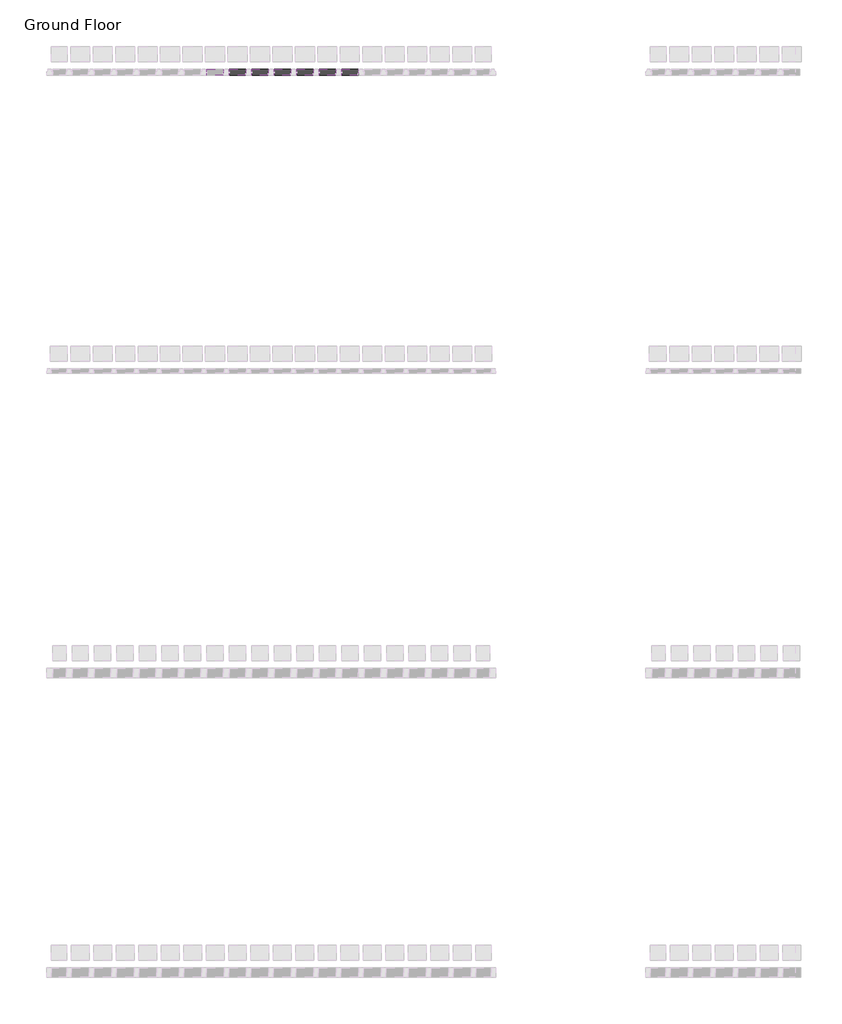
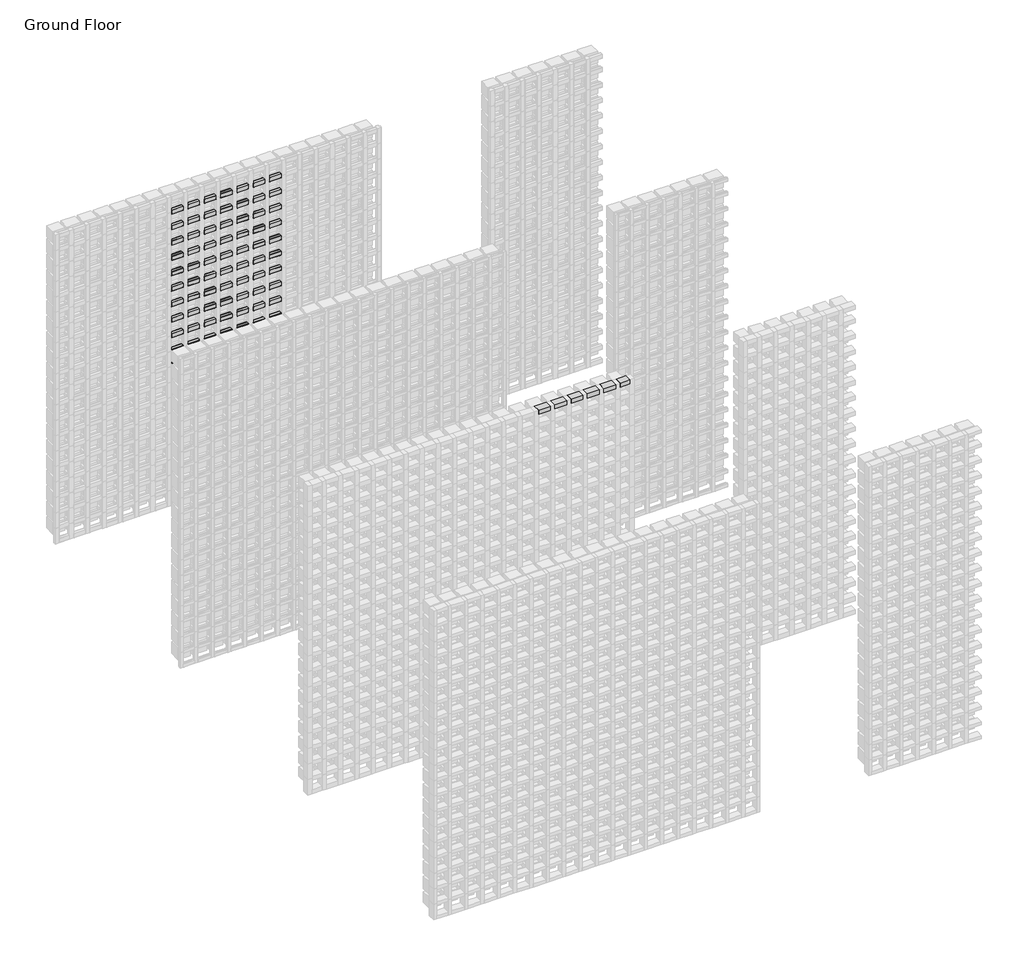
# One storey, part 123 of 350: 102 members, 38 plates.
"""IFC4 building model written with IfcOpenShell, lengths in millimetres."""

from ifc_helpers import new_model, si_unit, origin, place, context, project, spatial, transform, mapped, element, save
from components import rectangular_mullion_655930e9, rectangular_mullion_78309e0b, rectangular_mullion_581565bb, rectangular_mullion_141bfd94, rectangular_mullion_d5b82d3d, rectangular_mullion_f7732041, rectangular_mullion_c1c7f7ba, empty_system_panel_empty_571a4fa0, empty_system_panel_empty_3b500fad, empty_system_panel_empty_1faefc6a, empty_system_panel_empty_b6d7d726

model = new_model("IFC4")

# Units and contexts
model_context = context("Model", 3, world=origin())
ifc_project = project(units=[si_unit("LENGTHUNIT", "METRE", prefix="MILLI")], contexts=[model_context])

# Site, building, storey
site = spatial("IfcSite", under=ifc_project)
building = spatial("IfcBuilding", under=site)
storey = spatial("IfcBuildingStorey", under=building, Name="Ground Floor", Elevation=0.0)

# Members
placement = place(None, origin())
rectangular_mullion_shape = rectangular_mullion_655930e9(model_context)
element("IfcMember", 1, ObjectType="Rectangular Mullion : Batten_Timber_Modinex_Austratus_Grid_Fascia_40x65_Blackbutt", at=placement, inside=storey, context=model_context, shape_type="MappedRepresentation", body=[
    mapped(rectangular_mullion_shape, transform((8016.4361642, 40968.2978302, 0.0), x_axis=(1.0, 0.0, 0.0), y_axis=(0.0, -1.0, 0.0), z_axis=(0.0, 0.0, -1.0))),
])
element("IfcMember", 2, ObjectType="Rectangular Mullion : Batten_Timber_Modinex_Austratus_Grid_Fascia_40x65_Blackbutt", at=placement, inside=storey, context=model_context, shape_type="MappedRepresentation", body=[
    mapped(rectangular_mullion_shape, transform((8166.4361642, 40968.2978302, 0.0), x_axis=(1.0, 0.0, 0.0), y_axis=(0.0, -1.0, 0.0), z_axis=(0.0, 0.0, -1.0))),
])
element("IfcMember", 3, ObjectType="Rectangular Mullion : Batten_Timber_Modinex_Austratus_Grid_Fascia_40x65_Blackbutt", at=placement, inside=storey, context=model_context, shape_type="MappedRepresentation", body=[
    mapped(rectangular_mullion_shape, transform((8316.4361642, 40968.2978302, 0.0), x_axis=(1.0, 0.0, 0.0), y_axis=(0.0, -1.0, 0.0), z_axis=(0.0, 0.0, -1.0))),
])
element("IfcMember", 4, ObjectType="Rectangular Mullion : Batten_Timber_Modinex_Austratus_Grid_Fascia_40x65_Blackbutt", at=placement, inside=storey, context=model_context, shape_type="MappedRepresentation", body=[
    mapped(rectangular_mullion_shape, transform((8466.4361642, 40968.2978302, 0.0), x_axis=(1.0, 0.0, 0.0), y_axis=(0.0, -1.0, 0.0), z_axis=(0.0, 0.0, -1.0))),
])
element("IfcMember", 5, ObjectType="Rectangular Mullion : Batten_Timber_Modinex_Austratus_Grid_Fascia_40x65_Blackbutt", at=placement, inside=storey, context=model_context, shape_type="MappedRepresentation", body=[
    mapped(rectangular_mullion_shape, transform((8616.4361642, 40968.2978302, 0.0), x_axis=(1.0, 0.0, 0.0), y_axis=(0.0, -1.0, 0.0), z_axis=(0.0, 0.0, -1.0))),
])
element("IfcMember", 6, ObjectType="Rectangular Mullion : Batten_Timber_Modinex_Austratus_Grid_Fascia_40x65_Blackbutt", at=placement, inside=storey, context=model_context, shape_type="MappedRepresentation", body=[
    mapped(rectangular_mullion_shape, transform((8766.4361642, 40968.2978302, 0.0), x_axis=(1.0, 0.0, 0.0), y_axis=(0.0, -1.0, 0.0), z_axis=(0.0, 0.0, -1.0))),
])
rectangular_mullion_2_shape = rectangular_mullion_78309e0b(model_context)
element("IfcMember", 7, ObjectType="Rectangular Mullion : Batten_Timber_Modinex_Austratus_Grid_Fascia_40x65_Blackbutt", at=placement, inside=storey, context=model_context, shape_type="MappedRepresentation", body=[
    mapped(rectangular_mullion_2_shape, transform((8876.4361639, 40968.2978302, 3000.0), x_axis=(0.0, 0.0, 1.0), y_axis=(0.0, -1.0, 0.0), z_axis=(1.0, 0.0, 0.0))),
])
rectangular_mullion_3_shape = rectangular_mullion_581565bb(model_context)
element("IfcMember", 8, ObjectType="Rectangular Mullion : Batten_Timber_Modinex_Austratus_Grid_Fascia_40x65_Blackbutt", at=placement, inside=storey, context=model_context, shape_type="MappedRepresentation", body=[
    mapped(rectangular_mullion_3_shape, transform((8146.4361642, 40968.2978302, 3000.0), x_axis=(0.0, 0.0, 1.0), y_axis=(0.0, -1.0, 0.0), z_axis=(1.0, 0.0, 0.0))),
])
element("IfcMember", 9, ObjectType="Rectangular Mullion : Batten_Timber_Modinex_Austratus_Grid_Fascia_40x65_Blackbutt", at=placement, inside=storey, context=model_context, shape_type="MappedRepresentation", body=[
    mapped(rectangular_mullion_3_shape, transform((8296.4361642, 40968.2978302, 3000.0), x_axis=(0.0, 0.0, 1.0), y_axis=(0.0, -1.0, 0.0), z_axis=(1.0, 0.0, 0.0))),
])
element("IfcMember", 10, ObjectType="Rectangular Mullion : Batten_Timber_Modinex_Austratus_Grid_Fascia_40x65_Blackbutt", at=placement, inside=storey, context=model_context, shape_type="MappedRepresentation", body=[
    mapped(rectangular_mullion_3_shape, transform((8446.4361642, 40968.2978302, 3000.0), x_axis=(0.0, 0.0, 1.0), y_axis=(0.0, -1.0, 0.0), z_axis=(1.0, 0.0, 0.0))),
])
element("IfcMember", 11, ObjectType="Rectangular Mullion : Batten_Timber_Modinex_Austratus_Grid_Fascia_40x65_Blackbutt", at=placement, inside=storey, context=model_context, shape_type="MappedRepresentation", body=[
    mapped(rectangular_mullion_3_shape, transform((8596.4361642, 40968.2978302, 3000.0), x_axis=(0.0, 0.0, 1.0), y_axis=(0.0, -1.0, 0.0), z_axis=(1.0, 0.0, 0.0))),
])
element("IfcMember", 12, ObjectType="Rectangular Mullion : Batten_Timber_Modinex_Austratus_Grid_Fascia_40x65_Blackbutt", at=placement, inside=storey, context=model_context, shape_type="MappedRepresentation", body=[
    mapped(rectangular_mullion_3_shape, transform((8746.4361642, 40968.2978302, 3000.0), x_axis=(0.0, 0.0, 1.0), y_axis=(0.0, -1.0, 0.0), z_axis=(1.0, 0.0, 0.0))),
])
rectangular_mullion_4_shape = rectangular_mullion_141bfd94(model_context)
element("IfcMember", 13, ObjectType="Rectangular Mullion : Batten_Timber_Modinex_Austratus_Grid_Fascia_40x65_Blackbutt", at=placement, inside=storey, context=model_context, shape_type="MappedRepresentation", body=[
    mapped(rectangular_mullion_4_shape, transform((8786.4361642, 40968.2978302, 0.0), x_axis=(0.0, 0.0, -1.0), y_axis=(0.0, -1.0, 0.0), z_axis=(-1.0, 0.0, 0.0))),
])
rectangular_mullion_5_shape = rectangular_mullion_d5b82d3d(model_context)
element("IfcMember", 14, ObjectType="Rectangular Mullion : Batten_Timber_Modinex_Austratus_Grid_Fascia_40x65_Blackbutt", at=placement, inside=storey, context=model_context, shape_type="MappedRepresentation", body=[
    mapped(rectangular_mullion_5_shape, transform((8036.4361642, 40968.2978302, 0.0), x_axis=(0.0, 0.0, -1.0), y_axis=(0.0, -1.0, 0.0), z_axis=(-1.0, 0.0, 0.0))),
])
element("IfcMember", 15, ObjectType="Rectangular Mullion : Batten_Timber_Modinex_Austratus_Grid_Fascia_40x65_Blackbutt", at=placement, inside=storey, context=model_context, shape_type="MappedRepresentation", body=[
    mapped(rectangular_mullion_5_shape, transform((8186.4361642, 40968.2978302, 0.0), x_axis=(0.0, 0.0, -1.0), y_axis=(0.0, -1.0, 0.0), z_axis=(-1.0, 0.0, 0.0))),
])
element("IfcMember", 16, ObjectType="Rectangular Mullion : Batten_Timber_Modinex_Austratus_Grid_Fascia_40x65_Blackbutt", at=placement, inside=storey, context=model_context, shape_type="MappedRepresentation", body=[
    mapped(rectangular_mullion_5_shape, transform((8336.4361642, 40968.2978302, 0.0), x_axis=(0.0, 0.0, -1.0), y_axis=(0.0, -1.0, 0.0), z_axis=(-1.0, 0.0, 0.0))),
])
element("IfcMember", 17, ObjectType="Rectangular Mullion : Batten_Timber_Modinex_Austratus_Grid_Fascia_40x65_Blackbutt", at=placement, inside=storey, context=model_context, shape_type="MappedRepresentation", body=[
    mapped(rectangular_mullion_5_shape, transform((8486.4361642, 40968.2978302, 0.0), x_axis=(0.0, 0.0, -1.0), y_axis=(0.0, -1.0, 0.0), z_axis=(-1.0, 0.0, 0.0))),
])
element("IfcMember", 18, ObjectType="Rectangular Mullion : Batten_Timber_Modinex_Austratus_Grid_Fascia_40x65_Blackbutt", at=placement, inside=storey, context=model_context, shape_type="MappedRepresentation", body=[
    mapped(rectangular_mullion_5_shape, transform((8636.4361642, 40968.2978302, 0.0), x_axis=(0.0, 0.0, -1.0), y_axis=(0.0, -1.0, 0.0), z_axis=(-1.0, 0.0, 0.0))),
])
rectangular_mullion_6_shape = rectangular_mullion_f7732041(model_context)
element("IfcMember", 19, ObjectType="Rectangular Mullion : Batten_Timber_Modinex_Austratus_Grid_Fascia_40x65_Blackbutt", at=placement, inside=storey, context=model_context, shape_type="MappedRepresentation", body=[
    mapped(rectangular_mullion_6_shape, transform((8916.4361639, 40968.2978302, 0.0), x_axis=(1.0, 0.0, 0.0), y_axis=(0.0, -1.0, 0.0), z_axis=(0.0, 0.0, -1.0))),
])
rectangular_mullion_7_shape = rectangular_mullion_c1c7f7ba(model_context)
element("IfcMember", 20, ObjectType="Rectangular Mullion : Batten_Timber_Modinex_Austratus_Grid_Fin_40x40_Blackbutt", at=placement, inside=storey, context=model_context, shape_type="MappedRepresentation", body=[
    mapped(rectangular_mullion_7_shape, transform((7246.4361642, 44968.2978302, 1200.0), x_axis=(0.0, 0.0, 1.0), y_axis=(0.0, -1.0, 0.0), z_axis=(1.0, 0.0, 0.0))),
])
element("IfcMember", 21, ObjectType="Rectangular Mullion : Batten_Timber_Modinex_Austratus_Grid_Fin_40x40_Blackbutt", at=placement, inside=storey, context=model_context, shape_type="MappedRepresentation", body=[
    mapped(rectangular_mullion_7_shape, transform((7396.4361642, 44968.2978302, 1200.0), x_axis=(0.0, 0.0, 1.0), y_axis=(0.0, -1.0, 0.0), z_axis=(1.0, 0.0, 0.0))),
])
element("IfcMember", 22, ObjectType="Rectangular Mullion : Batten_Timber_Modinex_Austratus_Grid_Fin_40x40_Blackbutt", at=placement, inside=storey, context=model_context, shape_type="MappedRepresentation", body=[
    mapped(rectangular_mullion_7_shape, transform((7546.4361642, 44968.2978302, 1200.0), x_axis=(0.0, 0.0, 1.0), y_axis=(0.0, -1.0, 0.0), z_axis=(1.0, 0.0, 0.0))),
])
element("IfcMember", 23, ObjectType="Rectangular Mullion : Batten_Timber_Modinex_Austratus_Grid_Fin_40x40_Blackbutt", at=placement, inside=storey, context=model_context, shape_type="MappedRepresentation", body=[
    mapped(rectangular_mullion_7_shape, transform((7696.4361642, 44968.2978302, 1200.0), x_axis=(0.0, 0.0, 1.0), y_axis=(0.0, -1.0, 0.0), z_axis=(1.0, 0.0, 0.0))),
])
element("IfcMember", 24, ObjectType="Rectangular Mullion : Batten_Timber_Modinex_Austratus_Grid_Fin_40x40_Blackbutt", at=placement, inside=storey, context=model_context, shape_type="MappedRepresentation", body=[
    mapped(rectangular_mullion_7_shape, transform((7846.4361642, 44968.2978302, 1200.0), x_axis=(0.0, 0.0, 1.0), y_axis=(0.0, -1.0, 0.0), z_axis=(1.0, 0.0, 0.0))),
])
element("IfcMember", 25, ObjectType="Rectangular Mullion : Batten_Timber_Modinex_Austratus_Grid_Fin_40x40_Blackbutt", at=placement, inside=storey, context=model_context, shape_type="MappedRepresentation", body=[
    mapped(rectangular_mullion_7_shape, transform((7996.4361642, 44968.2978302, 1200.0), x_axis=(0.0, 0.0, 1.0), y_axis=(0.0, -1.0, 0.0), z_axis=(1.0, 0.0, 0.0))),
])
element("IfcMember", 26, ObjectType="Rectangular Mullion : Batten_Timber_Modinex_Austratus_Grid_Fin_40x40_Blackbutt", at=placement, inside=storey, context=model_context, shape_type="MappedRepresentation", body=[
    mapped(rectangular_mullion_7_shape, transform((7096.4361642, 44968.2978302, 1350.0), x_axis=(0.0, 0.0, 1.0), y_axis=(0.0, -1.0, 0.0), z_axis=(1.0, 0.0, 0.0))),
])
element("IfcMember", 27, ObjectType="Rectangular Mullion : Batten_Timber_Modinex_Austratus_Grid_Fin_40x40_Blackbutt", at=placement, inside=storey, context=model_context, shape_type="MappedRepresentation", body=[
    mapped(rectangular_mullion_7_shape, transform((7246.4361642, 44968.2978302, 1350.0), x_axis=(0.0, 0.0, 1.0), y_axis=(0.0, -1.0, 0.0), z_axis=(1.0, 0.0, 0.0))),
])
element("IfcMember", 28, ObjectType="Rectangular Mullion : Batten_Timber_Modinex_Austratus_Grid_Fin_40x40_Blackbutt", at=placement, inside=storey, context=model_context, shape_type="MappedRepresentation", body=[
    mapped(rectangular_mullion_7_shape, transform((7396.4361642, 44968.2978302, 1350.0), x_axis=(0.0, 0.0, 1.0), y_axis=(0.0, -1.0, 0.0), z_axis=(1.0, 0.0, 0.0))),
])
element("IfcMember", 29, ObjectType="Rectangular Mullion : Batten_Timber_Modinex_Austratus_Grid_Fin_40x40_Blackbutt", at=placement, inside=storey, context=model_context, shape_type="MappedRepresentation", body=[
    mapped(rectangular_mullion_7_shape, transform((7546.4361642, 44968.2978302, 1350.0), x_axis=(0.0, 0.0, 1.0), y_axis=(0.0, -1.0, 0.0), z_axis=(1.0, 0.0, 0.0))),
])
element("IfcMember", 30, ObjectType="Rectangular Mullion : Batten_Timber_Modinex_Austratus_Grid_Fin_40x40_Blackbutt", at=placement, inside=storey, context=model_context, shape_type="MappedRepresentation", body=[
    mapped(rectangular_mullion_7_shape, transform((7696.4361642, 44968.2978302, 1350.0), x_axis=(0.0, 0.0, 1.0), y_axis=(0.0, -1.0, 0.0), z_axis=(1.0, 0.0, 0.0))),
])
element("IfcMember", 31, ObjectType="Rectangular Mullion : Batten_Timber_Modinex_Austratus_Grid_Fin_40x40_Blackbutt", at=placement, inside=storey, context=model_context, shape_type="MappedRepresentation", body=[
    mapped(rectangular_mullion_7_shape, transform((7846.4361642, 44968.2978302, 1350.0), x_axis=(0.0, 0.0, 1.0), y_axis=(0.0, -1.0, 0.0), z_axis=(1.0, 0.0, 0.0))),
])
element("IfcMember", 32, ObjectType="Rectangular Mullion : Batten_Timber_Modinex_Austratus_Grid_Fin_40x40_Blackbutt", at=placement, inside=storey, context=model_context, shape_type="MappedRepresentation", body=[
    mapped(rectangular_mullion_7_shape, transform((7996.4361642, 44968.2978302, 1350.0), x_axis=(0.0, 0.0, 1.0), y_axis=(0.0, -1.0, 0.0), z_axis=(1.0, 0.0, 0.0))),
])
element("IfcMember", 33, ObjectType="Rectangular Mullion : Batten_Timber_Modinex_Austratus_Grid_Fin_40x40_Blackbutt", at=placement, inside=storey, context=model_context, shape_type="MappedRepresentation", body=[
    mapped(rectangular_mullion_7_shape, transform((7096.4361642, 44968.2978302, 1500.0), x_axis=(0.0, 0.0, 1.0), y_axis=(0.0, -1.0, 0.0), z_axis=(1.0, 0.0, 0.0))),
])
element("IfcMember", 34, ObjectType="Rectangular Mullion : Batten_Timber_Modinex_Austratus_Grid_Fin_40x40_Blackbutt", at=placement, inside=storey, context=model_context, shape_type="MappedRepresentation", body=[
    mapped(rectangular_mullion_7_shape, transform((7246.4361642, 44968.2978302, 1500.0), x_axis=(0.0, 0.0, 1.0), y_axis=(0.0, -1.0, 0.0), z_axis=(1.0, 0.0, 0.0))),
])
element("IfcMember", 35, ObjectType="Rectangular Mullion : Batten_Timber_Modinex_Austratus_Grid_Fin_40x40_Blackbutt", at=placement, inside=storey, context=model_context, shape_type="MappedRepresentation", body=[
    mapped(rectangular_mullion_7_shape, transform((7396.4361642, 44968.2978302, 1500.0), x_axis=(0.0, 0.0, 1.0), y_axis=(0.0, -1.0, 0.0), z_axis=(1.0, 0.0, 0.0))),
])
element("IfcMember", 36, ObjectType="Rectangular Mullion : Batten_Timber_Modinex_Austratus_Grid_Fin_40x40_Blackbutt", at=placement, inside=storey, context=model_context, shape_type="MappedRepresentation", body=[
    mapped(rectangular_mullion_7_shape, transform((7546.4361642, 44968.2978302, 1500.0), x_axis=(0.0, 0.0, 1.0), y_axis=(0.0, -1.0, 0.0), z_axis=(1.0, 0.0, 0.0))),
])
element("IfcMember", 37, ObjectType="Rectangular Mullion : Batten_Timber_Modinex_Austratus_Grid_Fin_40x40_Blackbutt", at=placement, inside=storey, context=model_context, shape_type="MappedRepresentation", body=[
    mapped(rectangular_mullion_7_shape, transform((7696.4361642, 44968.2978302, 1500.0), x_axis=(0.0, 0.0, 1.0), y_axis=(0.0, -1.0, 0.0), z_axis=(1.0, 0.0, 0.0))),
])
element("IfcMember", 38, ObjectType="Rectangular Mullion : Batten_Timber_Modinex_Austratus_Grid_Fin_40x40_Blackbutt", at=placement, inside=storey, context=model_context, shape_type="MappedRepresentation", body=[
    mapped(rectangular_mullion_7_shape, transform((7846.4361642, 44968.2978302, 1500.0), x_axis=(0.0, 0.0, 1.0), y_axis=(0.0, -1.0, 0.0), z_axis=(1.0, 0.0, 0.0))),
])
element("IfcMember", 39, ObjectType="Rectangular Mullion : Batten_Timber_Modinex_Austratus_Grid_Fin_40x40_Blackbutt", at=placement, inside=storey, context=model_context, shape_type="MappedRepresentation", body=[
    mapped(rectangular_mullion_7_shape, transform((7996.4361642, 44968.2978302, 1500.0), x_axis=(0.0, 0.0, 1.0), y_axis=(0.0, -1.0, 0.0), z_axis=(1.0, 0.0, 0.0))),
])
element("IfcMember", 40, ObjectType="Rectangular Mullion : Batten_Timber_Modinex_Austratus_Grid_Fin_40x40_Blackbutt", at=placement, inside=storey, context=model_context, shape_type="MappedRepresentation", body=[
    mapped(rectangular_mullion_7_shape, transform((7096.4361642, 44968.2978302, 1650.0), x_axis=(0.0, 0.0, 1.0), y_axis=(0.0, -1.0, 0.0), z_axis=(1.0, 0.0, 0.0))),
])
element("IfcMember", 41, ObjectType="Rectangular Mullion : Batten_Timber_Modinex_Austratus_Grid_Fin_40x40_Blackbutt", at=placement, inside=storey, context=model_context, shape_type="MappedRepresentation", body=[
    mapped(rectangular_mullion_7_shape, transform((7246.4361642, 44968.2978302, 1650.0), x_axis=(0.0, 0.0, 1.0), y_axis=(0.0, -1.0, 0.0), z_axis=(1.0, 0.0, 0.0))),
])
element("IfcMember", 42, ObjectType="Rectangular Mullion : Batten_Timber_Modinex_Austratus_Grid_Fin_40x40_Blackbutt", at=placement, inside=storey, context=model_context, shape_type="MappedRepresentation", body=[
    mapped(rectangular_mullion_7_shape, transform((7396.4361642, 44968.2978302, 1650.0), x_axis=(0.0, 0.0, 1.0), y_axis=(0.0, -1.0, 0.0), z_axis=(1.0, 0.0, 0.0))),
])
element("IfcMember", 43, ObjectType="Rectangular Mullion : Batten_Timber_Modinex_Austratus_Grid_Fin_40x40_Blackbutt", at=placement, inside=storey, context=model_context, shape_type="MappedRepresentation", body=[
    mapped(rectangular_mullion_7_shape, transform((7546.4361642, 44968.2978302, 1650.0), x_axis=(0.0, 0.0, 1.0), y_axis=(0.0, -1.0, 0.0), z_axis=(1.0, 0.0, 0.0))),
])
element("IfcMember", 44, ObjectType="Rectangular Mullion : Batten_Timber_Modinex_Austratus_Grid_Fin_40x40_Blackbutt", at=placement, inside=storey, context=model_context, shape_type="MappedRepresentation", body=[
    mapped(rectangular_mullion_7_shape, transform((7696.4361642, 44968.2978302, 1650.0), x_axis=(0.0, 0.0, 1.0), y_axis=(0.0, -1.0, 0.0), z_axis=(1.0, 0.0, 0.0))),
])
element("IfcMember", 45, ObjectType="Rectangular Mullion : Batten_Timber_Modinex_Austratus_Grid_Fin_40x40_Blackbutt", at=placement, inside=storey, context=model_context, shape_type="MappedRepresentation", body=[
    mapped(rectangular_mullion_7_shape, transform((7846.4361642, 44968.2978302, 1650.0), x_axis=(0.0, 0.0, 1.0), y_axis=(0.0, -1.0, 0.0), z_axis=(1.0, 0.0, 0.0))),
])
element("IfcMember", 46, ObjectType="Rectangular Mullion : Batten_Timber_Modinex_Austratus_Grid_Fin_40x40_Blackbutt", at=placement, inside=storey, context=model_context, shape_type="MappedRepresentation", body=[
    mapped(rectangular_mullion_7_shape, transform((7996.4361642, 44968.2978302, 1650.0), x_axis=(0.0, 0.0, 1.0), y_axis=(0.0, -1.0, 0.0), z_axis=(1.0, 0.0, 0.0))),
])
element("IfcMember", 47, ObjectType="Rectangular Mullion : Batten_Timber_Modinex_Austratus_Grid_Fin_40x40_Blackbutt", at=placement, inside=storey, context=model_context, shape_type="MappedRepresentation", body=[
    mapped(rectangular_mullion_7_shape, transform((7096.4361642, 44968.2978302, 1800.0), x_axis=(0.0, 0.0, 1.0), y_axis=(0.0, -1.0, 0.0), z_axis=(1.0, 0.0, 0.0))),
])
element("IfcMember", 48, ObjectType="Rectangular Mullion : Batten_Timber_Modinex_Austratus_Grid_Fin_40x40_Blackbutt", at=placement, inside=storey, context=model_context, shape_type="MappedRepresentation", body=[
    mapped(rectangular_mullion_7_shape, transform((7246.4361642, 44968.2978302, 1800.0), x_axis=(0.0, 0.0, 1.0), y_axis=(0.0, -1.0, 0.0), z_axis=(1.0, 0.0, 0.0))),
])
element("IfcMember", 49, ObjectType="Rectangular Mullion : Batten_Timber_Modinex_Austratus_Grid_Fin_40x40_Blackbutt", at=placement, inside=storey, context=model_context, shape_type="MappedRepresentation", body=[
    mapped(rectangular_mullion_7_shape, transform((7396.4361642, 44968.2978302, 1800.0), x_axis=(0.0, 0.0, 1.0), y_axis=(0.0, -1.0, 0.0), z_axis=(1.0, 0.0, 0.0))),
])
element("IfcMember", 50, ObjectType="Rectangular Mullion : Batten_Timber_Modinex_Austratus_Grid_Fin_40x40_Blackbutt", at=placement, inside=storey, context=model_context, shape_type="MappedRepresentation", body=[
    mapped(rectangular_mullion_7_shape, transform((7546.4361642, 44968.2978302, 1800.0), x_axis=(0.0, 0.0, 1.0), y_axis=(0.0, -1.0, 0.0), z_axis=(1.0, 0.0, 0.0))),
])
element("IfcMember", 51, ObjectType="Rectangular Mullion : Batten_Timber_Modinex_Austratus_Grid_Fin_40x40_Blackbutt", at=placement, inside=storey, context=model_context, shape_type="MappedRepresentation", body=[
    mapped(rectangular_mullion_7_shape, transform((7696.4361642, 44968.2978302, 1800.0), x_axis=(0.0, 0.0, 1.0), y_axis=(0.0, -1.0, 0.0), z_axis=(1.0, 0.0, 0.0))),
])
element("IfcMember", 52, ObjectType="Rectangular Mullion : Batten_Timber_Modinex_Austratus_Grid_Fin_40x40_Blackbutt", at=placement, inside=storey, context=model_context, shape_type="MappedRepresentation", body=[
    mapped(rectangular_mullion_7_shape, transform((7846.4361642, 44968.2978302, 1800.0), x_axis=(0.0, 0.0, 1.0), y_axis=(0.0, -1.0, 0.0), z_axis=(1.0, 0.0, 0.0))),
])
element("IfcMember", 53, ObjectType="Rectangular Mullion : Batten_Timber_Modinex_Austratus_Grid_Fin_40x40_Blackbutt", at=placement, inside=storey, context=model_context, shape_type="MappedRepresentation", body=[
    mapped(rectangular_mullion_7_shape, transform((7996.4361642, 44968.2978302, 1800.0), x_axis=(0.0, 0.0, 1.0), y_axis=(0.0, -1.0, 0.0), z_axis=(1.0, 0.0, 0.0))),
])
element("IfcMember", 54, ObjectType="Rectangular Mullion : Batten_Timber_Modinex_Austratus_Grid_Fin_40x40_Blackbutt", at=placement, inside=storey, context=model_context, shape_type="MappedRepresentation", body=[
    mapped(rectangular_mullion_7_shape, transform((7096.4361642, 44968.2978302, 1950.0), x_axis=(0.0, 0.0, 1.0), y_axis=(0.0, -1.0, 0.0), z_axis=(1.0, 0.0, 0.0))),
])
element("IfcMember", 55, ObjectType="Rectangular Mullion : Batten_Timber_Modinex_Austratus_Grid_Fin_40x40_Blackbutt", at=placement, inside=storey, context=model_context, shape_type="MappedRepresentation", body=[
    mapped(rectangular_mullion_7_shape, transform((7246.4361642, 44968.2978302, 1950.0), x_axis=(0.0, 0.0, 1.0), y_axis=(0.0, -1.0, 0.0), z_axis=(1.0, 0.0, 0.0))),
])
element("IfcMember", 56, ObjectType="Rectangular Mullion : Batten_Timber_Modinex_Austratus_Grid_Fin_40x40_Blackbutt", at=placement, inside=storey, context=model_context, shape_type="MappedRepresentation", body=[
    mapped(rectangular_mullion_7_shape, transform((7396.4361642, 44968.2978302, 1950.0), x_axis=(0.0, 0.0, 1.0), y_axis=(0.0, -1.0, 0.0), z_axis=(1.0, 0.0, 0.0))),
])
element("IfcMember", 57, ObjectType="Rectangular Mullion : Batten_Timber_Modinex_Austratus_Grid_Fin_40x40_Blackbutt", at=placement, inside=storey, context=model_context, shape_type="MappedRepresentation", body=[
    mapped(rectangular_mullion_7_shape, transform((7546.4361642, 44968.2978302, 1950.0), x_axis=(0.0, 0.0, 1.0), y_axis=(0.0, -1.0, 0.0), z_axis=(1.0, 0.0, 0.0))),
])
element("IfcMember", 58, ObjectType="Rectangular Mullion : Batten_Timber_Modinex_Austratus_Grid_Fin_40x40_Blackbutt", at=placement, inside=storey, context=model_context, shape_type="MappedRepresentation", body=[
    mapped(rectangular_mullion_7_shape, transform((7696.4361642, 44968.2978302, 1950.0), x_axis=(0.0, 0.0, 1.0), y_axis=(0.0, -1.0, 0.0), z_axis=(1.0, 0.0, 0.0))),
])
element("IfcMember", 59, ObjectType="Rectangular Mullion : Batten_Timber_Modinex_Austratus_Grid_Fin_40x40_Blackbutt", at=placement, inside=storey, context=model_context, shape_type="MappedRepresentation", body=[
    mapped(rectangular_mullion_7_shape, transform((7846.4361642, 44968.2978302, 1950.0), x_axis=(0.0, 0.0, 1.0), y_axis=(0.0, -1.0, 0.0), z_axis=(1.0, 0.0, 0.0))),
])
element("IfcMember", 60, ObjectType="Rectangular Mullion : Batten_Timber_Modinex_Austratus_Grid_Fin_40x40_Blackbutt", at=placement, inside=storey, context=model_context, shape_type="MappedRepresentation", body=[
    mapped(rectangular_mullion_7_shape, transform((7996.4361642, 44968.2978302, 1950.0), x_axis=(0.0, 0.0, 1.0), y_axis=(0.0, -1.0, 0.0), z_axis=(1.0, 0.0, 0.0))),
])
element("IfcMember", 61, ObjectType="Rectangular Mullion : Batten_Timber_Modinex_Austratus_Grid_Fin_40x40_Blackbutt", at=placement, inside=storey, context=model_context, shape_type="MappedRepresentation", body=[
    mapped(rectangular_mullion_7_shape, transform((7096.4361642, 44968.2978302, 2100.0), x_axis=(0.0, 0.0, 1.0), y_axis=(0.0, -1.0, 0.0), z_axis=(1.0, 0.0, 0.0))),
])
element("IfcMember", 62, ObjectType="Rectangular Mullion : Batten_Timber_Modinex_Austratus_Grid_Fin_40x40_Blackbutt", at=placement, inside=storey, context=model_context, shape_type="MappedRepresentation", body=[
    mapped(rectangular_mullion_7_shape, transform((7246.4361642, 44968.2978302, 2100.0), x_axis=(0.0, 0.0, 1.0), y_axis=(0.0, -1.0, 0.0), z_axis=(1.0, 0.0, 0.0))),
])
element("IfcMember", 63, ObjectType="Rectangular Mullion : Batten_Timber_Modinex_Austratus_Grid_Fin_40x40_Blackbutt", at=placement, inside=storey, context=model_context, shape_type="MappedRepresentation", body=[
    mapped(rectangular_mullion_7_shape, transform((7396.4361642, 44968.2978302, 2100.0), x_axis=(0.0, 0.0, 1.0), y_axis=(0.0, -1.0, 0.0), z_axis=(1.0, 0.0, 0.0))),
])
element("IfcMember", 64, ObjectType="Rectangular Mullion : Batten_Timber_Modinex_Austratus_Grid_Fin_40x40_Blackbutt", at=placement, inside=storey, context=model_context, shape_type="MappedRepresentation", body=[
    mapped(rectangular_mullion_7_shape, transform((7546.4361642, 44968.2978302, 2100.0), x_axis=(0.0, 0.0, 1.0), y_axis=(0.0, -1.0, 0.0), z_axis=(1.0, 0.0, 0.0))),
])
element("IfcMember", 65, ObjectType="Rectangular Mullion : Batten_Timber_Modinex_Austratus_Grid_Fin_40x40_Blackbutt", at=placement, inside=storey, context=model_context, shape_type="MappedRepresentation", body=[
    mapped(rectangular_mullion_7_shape, transform((7696.4361642, 44968.2978302, 2100.0), x_axis=(0.0, 0.0, 1.0), y_axis=(0.0, -1.0, 0.0), z_axis=(1.0, 0.0, 0.0))),
])
element("IfcMember", 66, ObjectType="Rectangular Mullion : Batten_Timber_Modinex_Austratus_Grid_Fin_40x40_Blackbutt", at=placement, inside=storey, context=model_context, shape_type="MappedRepresentation", body=[
    mapped(rectangular_mullion_7_shape, transform((7846.4361642, 44968.2978302, 2100.0), x_axis=(0.0, 0.0, 1.0), y_axis=(0.0, -1.0, 0.0), z_axis=(1.0, 0.0, 0.0))),
])
element("IfcMember", 67, ObjectType="Rectangular Mullion : Batten_Timber_Modinex_Austratus_Grid_Fin_40x40_Blackbutt", at=placement, inside=storey, context=model_context, shape_type="MappedRepresentation", body=[
    mapped(rectangular_mullion_7_shape, transform((7996.4361642, 44968.2978302, 2100.0), x_axis=(0.0, 0.0, 1.0), y_axis=(0.0, -1.0, 0.0), z_axis=(1.0, 0.0, 0.0))),
])
element("IfcMember", 68, ObjectType="Rectangular Mullion : Batten_Timber_Modinex_Austratus_Grid_Fin_40x40_Blackbutt", at=placement, inside=storey, context=model_context, shape_type="MappedRepresentation", body=[
    mapped(rectangular_mullion_7_shape, transform((7096.4361642, 44968.2978302, 2250.0), x_axis=(0.0, 0.0, 1.0), y_axis=(0.0, -1.0, 0.0), z_axis=(1.0, 0.0, 0.0))),
])
element("IfcMember", 69, ObjectType="Rectangular Mullion : Batten_Timber_Modinex_Austratus_Grid_Fin_40x40_Blackbutt", at=placement, inside=storey, context=model_context, shape_type="MappedRepresentation", body=[
    mapped(rectangular_mullion_7_shape, transform((7246.4361642, 44968.2978302, 2250.0), x_axis=(0.0, 0.0, 1.0), y_axis=(0.0, -1.0, 0.0), z_axis=(1.0, 0.0, 0.0))),
])
element("IfcMember", 70, ObjectType="Rectangular Mullion : Batten_Timber_Modinex_Austratus_Grid_Fin_40x40_Blackbutt", at=placement, inside=storey, context=model_context, shape_type="MappedRepresentation", body=[
    mapped(rectangular_mullion_7_shape, transform((7396.4361642, 44968.2978302, 2250.0), x_axis=(0.0, 0.0, 1.0), y_axis=(0.0, -1.0, 0.0), z_axis=(1.0, 0.0, 0.0))),
])
element("IfcMember", 71, ObjectType="Rectangular Mullion : Batten_Timber_Modinex_Austratus_Grid_Fin_40x40_Blackbutt", at=placement, inside=storey, context=model_context, shape_type="MappedRepresentation", body=[
    mapped(rectangular_mullion_7_shape, transform((7546.4361642, 44968.2978302, 2250.0), x_axis=(0.0, 0.0, 1.0), y_axis=(0.0, -1.0, 0.0), z_axis=(1.0, 0.0, 0.0))),
])
element("IfcMember", 72, ObjectType="Rectangular Mullion : Batten_Timber_Modinex_Austratus_Grid_Fin_40x40_Blackbutt", at=placement, inside=storey, context=model_context, shape_type="MappedRepresentation", body=[
    mapped(rectangular_mullion_7_shape, transform((7696.4361642, 44968.2978302, 2250.0), x_axis=(0.0, 0.0, 1.0), y_axis=(0.0, -1.0, 0.0), z_axis=(1.0, 0.0, 0.0))),
])
element("IfcMember", 73, ObjectType="Rectangular Mullion : Batten_Timber_Modinex_Austratus_Grid_Fin_40x40_Blackbutt", at=placement, inside=storey, context=model_context, shape_type="MappedRepresentation", body=[
    mapped(rectangular_mullion_7_shape, transform((7846.4361642, 44968.2978302, 2250.0), x_axis=(0.0, 0.0, 1.0), y_axis=(0.0, -1.0, 0.0), z_axis=(1.0, 0.0, 0.0))),
])
element("IfcMember", 74, ObjectType="Rectangular Mullion : Batten_Timber_Modinex_Austratus_Grid_Fin_40x40_Blackbutt", at=placement, inside=storey, context=model_context, shape_type="MappedRepresentation", body=[
    mapped(rectangular_mullion_7_shape, transform((7996.4361642, 44968.2978302, 2250.0), x_axis=(0.0, 0.0, 1.0), y_axis=(0.0, -1.0, 0.0), z_axis=(1.0, 0.0, 0.0))),
])
element("IfcMember", 75, ObjectType="Rectangular Mullion : Batten_Timber_Modinex_Austratus_Grid_Fin_40x40_Blackbutt", at=placement, inside=storey, context=model_context, shape_type="MappedRepresentation", body=[
    mapped(rectangular_mullion_7_shape, transform((7096.4361642, 44968.2978302, 2400.0), x_axis=(0.0, 0.0, 1.0), y_axis=(0.0, -1.0, 0.0), z_axis=(1.0, 0.0, 0.0))),
])
element("IfcMember", 76, ObjectType="Rectangular Mullion : Batten_Timber_Modinex_Austratus_Grid_Fin_40x40_Blackbutt", at=placement, inside=storey, context=model_context, shape_type="MappedRepresentation", body=[
    mapped(rectangular_mullion_7_shape, transform((7246.4361642, 44968.2978302, 2400.0), x_axis=(0.0, 0.0, 1.0), y_axis=(0.0, -1.0, 0.0), z_axis=(1.0, 0.0, 0.0))),
])
element("IfcMember", 77, ObjectType="Rectangular Mullion : Batten_Timber_Modinex_Austratus_Grid_Fin_40x40_Blackbutt", at=placement, inside=storey, context=model_context, shape_type="MappedRepresentation", body=[
    mapped(rectangular_mullion_7_shape, transform((7396.4361642, 44968.2978302, 2400.0), x_axis=(0.0, 0.0, 1.0), y_axis=(0.0, -1.0, 0.0), z_axis=(1.0, 0.0, 0.0))),
])
element("IfcMember", 78, ObjectType="Rectangular Mullion : Batten_Timber_Modinex_Austratus_Grid_Fin_40x40_Blackbutt", at=placement, inside=storey, context=model_context, shape_type="MappedRepresentation", body=[
    mapped(rectangular_mullion_7_shape, transform((7546.4361642, 44968.2978302, 2400.0), x_axis=(0.0, 0.0, 1.0), y_axis=(0.0, -1.0, 0.0), z_axis=(1.0, 0.0, 0.0))),
])
element("IfcMember", 79, ObjectType="Rectangular Mullion : Batten_Timber_Modinex_Austratus_Grid_Fin_40x40_Blackbutt", at=placement, inside=storey, context=model_context, shape_type="MappedRepresentation", body=[
    mapped(rectangular_mullion_7_shape, transform((7696.4361642, 44968.2978302, 2400.0), x_axis=(0.0, 0.0, 1.0), y_axis=(0.0, -1.0, 0.0), z_axis=(1.0, 0.0, 0.0))),
])
element("IfcMember", 80, ObjectType="Rectangular Mullion : Batten_Timber_Modinex_Austratus_Grid_Fin_40x40_Blackbutt", at=placement, inside=storey, context=model_context, shape_type="MappedRepresentation", body=[
    mapped(rectangular_mullion_7_shape, transform((7846.4361642, 44968.2978302, 2400.0), x_axis=(0.0, 0.0, 1.0), y_axis=(0.0, -1.0, 0.0), z_axis=(1.0, 0.0, 0.0))),
])
element("IfcMember", 81, ObjectType="Rectangular Mullion : Batten_Timber_Modinex_Austratus_Grid_Fin_40x40_Blackbutt", at=placement, inside=storey, context=model_context, shape_type="MappedRepresentation", body=[
    mapped(rectangular_mullion_7_shape, transform((7996.4361642, 44968.2978302, 2400.0), x_axis=(0.0, 0.0, 1.0), y_axis=(0.0, -1.0, 0.0), z_axis=(1.0, 0.0, 0.0))),
])
element("IfcMember", 82, ObjectType="Rectangular Mullion : Batten_Timber_Modinex_Austratus_Grid_Fin_40x40_Blackbutt", at=placement, inside=storey, context=model_context, shape_type="MappedRepresentation", body=[
    mapped(rectangular_mullion_7_shape, transform((7096.4361642, 44968.2978302, 2550.0), x_axis=(0.0, 0.0, 1.0), y_axis=(0.0, -1.0, 0.0), z_axis=(1.0, 0.0, 0.0))),
])
element("IfcMember", 83, ObjectType="Rectangular Mullion : Batten_Timber_Modinex_Austratus_Grid_Fin_40x40_Blackbutt", at=placement, inside=storey, context=model_context, shape_type="MappedRepresentation", body=[
    mapped(rectangular_mullion_7_shape, transform((7246.4361642, 44968.2978302, 2550.0), x_axis=(0.0, 0.0, 1.0), y_axis=(0.0, -1.0, 0.0), z_axis=(1.0, 0.0, 0.0))),
])
element("IfcMember", 84, ObjectType="Rectangular Mullion : Batten_Timber_Modinex_Austratus_Grid_Fin_40x40_Blackbutt", at=placement, inside=storey, context=model_context, shape_type="MappedRepresentation", body=[
    mapped(rectangular_mullion_7_shape, transform((7396.4361642, 44968.2978302, 2550.0), x_axis=(0.0, 0.0, 1.0), y_axis=(0.0, -1.0, 0.0), z_axis=(1.0, 0.0, 0.0))),
])
element("IfcMember", 85, ObjectType="Rectangular Mullion : Batten_Timber_Modinex_Austratus_Grid_Fin_40x40_Blackbutt", at=placement, inside=storey, context=model_context, shape_type="MappedRepresentation", body=[
    mapped(rectangular_mullion_7_shape, transform((7546.4361642, 44968.2978302, 2550.0), x_axis=(0.0, 0.0, 1.0), y_axis=(0.0, -1.0, 0.0), z_axis=(1.0, 0.0, 0.0))),
])
element("IfcMember", 86, ObjectType="Rectangular Mullion : Batten_Timber_Modinex_Austratus_Grid_Fin_40x40_Blackbutt", at=placement, inside=storey, context=model_context, shape_type="MappedRepresentation", body=[
    mapped(rectangular_mullion_7_shape, transform((7696.4361642, 44968.2978302, 2550.0), x_axis=(0.0, 0.0, 1.0), y_axis=(0.0, -1.0, 0.0), z_axis=(1.0, 0.0, 0.0))),
])
element("IfcMember", 87, ObjectType="Rectangular Mullion : Batten_Timber_Modinex_Austratus_Grid_Fin_40x40_Blackbutt", at=placement, inside=storey, context=model_context, shape_type="MappedRepresentation", body=[
    mapped(rectangular_mullion_7_shape, transform((7846.4361642, 44968.2978302, 2550.0), x_axis=(0.0, 0.0, 1.0), y_axis=(0.0, -1.0, 0.0), z_axis=(1.0, 0.0, 0.0))),
])
element("IfcMember", 88, ObjectType="Rectangular Mullion : Batten_Timber_Modinex_Austratus_Grid_Fin_40x40_Blackbutt", at=placement, inside=storey, context=model_context, shape_type="MappedRepresentation", body=[
    mapped(rectangular_mullion_7_shape, transform((7996.4361642, 44968.2978302, 2550.0), x_axis=(0.0, 0.0, 1.0), y_axis=(0.0, -1.0, 0.0), z_axis=(1.0, 0.0, 0.0))),
])
element("IfcMember", 89, ObjectType="Rectangular Mullion : Batten_Timber_Modinex_Austratus_Grid_Fin_40x40_Blackbutt", at=placement, inside=storey, context=model_context, shape_type="MappedRepresentation", body=[
    mapped(rectangular_mullion_7_shape, transform((7096.4361642, 44968.2978302, 2700.0), x_axis=(0.0, 0.0, 1.0), y_axis=(0.0, -1.0, 0.0), z_axis=(1.0, 0.0, 0.0))),
])
element("IfcMember", 90, ObjectType="Rectangular Mullion : Batten_Timber_Modinex_Austratus_Grid_Fin_40x40_Blackbutt", at=placement, inside=storey, context=model_context, shape_type="MappedRepresentation", body=[
    mapped(rectangular_mullion_7_shape, transform((7246.4361642, 44968.2978302, 2700.0), x_axis=(0.0, 0.0, 1.0), y_axis=(0.0, -1.0, 0.0), z_axis=(1.0, 0.0, 0.0))),
])
element("IfcMember", 91, ObjectType="Rectangular Mullion : Batten_Timber_Modinex_Austratus_Grid_Fin_40x40_Blackbutt", at=placement, inside=storey, context=model_context, shape_type="MappedRepresentation", body=[
    mapped(rectangular_mullion_7_shape, transform((7396.4361642, 44968.2978302, 2700.0), x_axis=(0.0, 0.0, 1.0), y_axis=(0.0, -1.0, 0.0), z_axis=(1.0, 0.0, 0.0))),
])
element("IfcMember", 92, ObjectType="Rectangular Mullion : Batten_Timber_Modinex_Austratus_Grid_Fin_40x40_Blackbutt", at=placement, inside=storey, context=model_context, shape_type="MappedRepresentation", body=[
    mapped(rectangular_mullion_7_shape, transform((7546.4361642, 44968.2978302, 2700.0), x_axis=(0.0, 0.0, 1.0), y_axis=(0.0, -1.0, 0.0), z_axis=(1.0, 0.0, 0.0))),
])
element("IfcMember", 93, ObjectType="Rectangular Mullion : Batten_Timber_Modinex_Austratus_Grid_Fin_40x40_Blackbutt", at=placement, inside=storey, context=model_context, shape_type="MappedRepresentation", body=[
    mapped(rectangular_mullion_7_shape, transform((7696.4361642, 44968.2978302, 2700.0), x_axis=(0.0, 0.0, 1.0), y_axis=(0.0, -1.0, 0.0), z_axis=(1.0, 0.0, 0.0))),
])
element("IfcMember", 94, ObjectType="Rectangular Mullion : Batten_Timber_Modinex_Austratus_Grid_Fin_40x40_Blackbutt", at=placement, inside=storey, context=model_context, shape_type="MappedRepresentation", body=[
    mapped(rectangular_mullion_7_shape, transform((7846.4361642, 44968.2978302, 2700.0), x_axis=(0.0, 0.0, 1.0), y_axis=(0.0, -1.0, 0.0), z_axis=(1.0, 0.0, 0.0))),
])
element("IfcMember", 95, ObjectType="Rectangular Mullion : Batten_Timber_Modinex_Austratus_Grid_Fin_40x40_Blackbutt", at=placement, inside=storey, context=model_context, shape_type="MappedRepresentation", body=[
    mapped(rectangular_mullion_7_shape, transform((7996.4361642, 44968.2978302, 2700.0), x_axis=(0.0, 0.0, 1.0), y_axis=(0.0, -1.0, 0.0), z_axis=(1.0, 0.0, 0.0))),
])
element("IfcMember", 96, ObjectType="Rectangular Mullion : Batten_Timber_Modinex_Austratus_Grid_Fin_40x40_Blackbutt", at=placement, inside=storey, context=model_context, shape_type="MappedRepresentation", body=[
    mapped(rectangular_mullion_7_shape, transform((7096.4361642, 44968.2978302, 2850.0), x_axis=(0.0, 0.0, 1.0), y_axis=(0.0, -1.0, 0.0), z_axis=(1.0, 0.0, 0.0))),
])
element("IfcMember", 97, ObjectType="Rectangular Mullion : Batten_Timber_Modinex_Austratus_Grid_Fin_40x40_Blackbutt", at=placement, inside=storey, context=model_context, shape_type="MappedRepresentation", body=[
    mapped(rectangular_mullion_7_shape, transform((7246.4361642, 44968.2978302, 2850.0), x_axis=(0.0, 0.0, 1.0), y_axis=(0.0, -1.0, 0.0), z_axis=(1.0, 0.0, 0.0))),
])
element("IfcMember", 98, ObjectType="Rectangular Mullion : Batten_Timber_Modinex_Austratus_Grid_Fin_40x40_Blackbutt", at=placement, inside=storey, context=model_context, shape_type="MappedRepresentation", body=[
    mapped(rectangular_mullion_7_shape, transform((7396.4361642, 44968.2978302, 2850.0), x_axis=(0.0, 0.0, 1.0), y_axis=(0.0, -1.0, 0.0), z_axis=(1.0, 0.0, 0.0))),
])
element("IfcMember", 99, ObjectType="Rectangular Mullion : Batten_Timber_Modinex_Austratus_Grid_Fin_40x40_Blackbutt", at=placement, inside=storey, context=model_context, shape_type="MappedRepresentation", body=[
    mapped(rectangular_mullion_7_shape, transform((7546.4361642, 44968.2978302, 2850.0), x_axis=(0.0, 0.0, 1.0), y_axis=(0.0, -1.0, 0.0), z_axis=(1.0, 0.0, 0.0))),
])
element("IfcMember", 100, ObjectType="Rectangular Mullion : Batten_Timber_Modinex_Austratus_Grid_Fin_40x40_Blackbutt", at=placement, inside=storey, context=model_context, shape_type="MappedRepresentation", body=[
    mapped(rectangular_mullion_7_shape, transform((7696.4361642, 44968.2978302, 2850.0), x_axis=(0.0, 0.0, 1.0), y_axis=(0.0, -1.0, 0.0), z_axis=(1.0, 0.0, 0.0))),
])
element("IfcMember", 101, ObjectType="Rectangular Mullion : Batten_Timber_Modinex_Austratus_Grid_Fin_40x40_Blackbutt", at=placement, inside=storey, context=model_context, shape_type="MappedRepresentation", body=[
    mapped(rectangular_mullion_7_shape, transform((7846.4361642, 44968.2978302, 2850.0), x_axis=(0.0, 0.0, 1.0), y_axis=(0.0, -1.0, 0.0), z_axis=(1.0, 0.0, 0.0))),
])
element("IfcMember", 102, ObjectType="Rectangular Mullion : Batten_Timber_Modinex_Austratus_Grid_Fin_40x40_Blackbutt", at=placement, inside=storey, context=model_context, shape_type="MappedRepresentation", body=[
    mapped(rectangular_mullion_7_shape, transform((7996.4361642, 44968.2978302, 2850.0), x_axis=(0.0, 0.0, 1.0), y_axis=(0.0, -1.0, 0.0), z_axis=(1.0, 0.0, 0.0))),
])

# Plates
empty_system_panel_empty_shape = empty_system_panel_empty_571a4fa0(model_context)
element("IfcPlate", 103, ObjectType="Empty System Panel : Empty", at=placement, inside=storey, context=model_context, shape_type="MappedRepresentation", body=[
    mapped(empty_system_panel_empty_shape, transform((8831.4361641, 40968.2978302, 40.0), x_axis=(1.0, 0.0, 0.0), y_axis=(0.0, 1.0, 0.0), z_axis=(0.0, 0.0, 1.0))),
])
empty_system_panel_empty_2_shape = empty_system_panel_empty_3b500fad(model_context)
element("IfcPlate", 104, ObjectType="Empty System Panel : Empty", at=placement, inside=storey, context=model_context, shape_type="MappedRepresentation", body=[
    mapped(empty_system_panel_empty_2_shape, transform((8091.4361642, 40968.2978302, 170.0), x_axis=(1.0, 0.0, 0.0), y_axis=(0.0, 1.0, 0.0), z_axis=(0.0, 0.0, 1.0))),
])
element("IfcPlate", 105, ObjectType="Empty System Panel : Empty", at=placement, inside=storey, context=model_context, shape_type="MappedRepresentation", body=[
    mapped(empty_system_panel_empty_2_shape, transform((8241.4361642, 40968.2978302, 170.0), x_axis=(1.0, 0.0, 0.0), y_axis=(0.0, 1.0, 0.0), z_axis=(0.0, 0.0, 1.0))),
])
element("IfcPlate", 106, ObjectType="Empty System Panel : Empty", at=placement, inside=storey, context=model_context, shape_type="MappedRepresentation", body=[
    mapped(empty_system_panel_empty_2_shape, transform((8391.4361642, 40968.2978302, 170.0), x_axis=(1.0, 0.0, 0.0), y_axis=(0.0, 1.0, 0.0), z_axis=(0.0, 0.0, 1.0))),
])
element("IfcPlate", 107, ObjectType="Empty System Panel : Empty", at=placement, inside=storey, context=model_context, shape_type="MappedRepresentation", body=[
    mapped(empty_system_panel_empty_2_shape, transform((8541.4361642, 40968.2978302, 170.0), x_axis=(1.0, 0.0, 0.0), y_axis=(0.0, 1.0, 0.0), z_axis=(0.0, 0.0, 1.0))),
])
element("IfcPlate", 108, ObjectType="Empty System Panel : Empty", at=placement, inside=storey, context=model_context, shape_type="MappedRepresentation", body=[
    mapped(empty_system_panel_empty_2_shape, transform((8691.4361642, 40968.2978302, 170.0), x_axis=(1.0, 0.0, 0.0), y_axis=(0.0, 1.0, 0.0), z_axis=(0.0, 0.0, 1.0))),
])
element("IfcPlate", 109, ObjectType="Empty System Panel : Empty", at=placement, inside=storey, context=model_context, shape_type="MappedRepresentation", body=[
    mapped(empty_system_panel_empty_2_shape, transform((8091.4361642, 40968.2978302, 320.0), x_axis=(1.0, 0.0, 0.0), y_axis=(0.0, 1.0, 0.0), z_axis=(0.0, 0.0, 1.0))),
])
element("IfcPlate", 110, ObjectType="Empty System Panel : Empty", at=placement, inside=storey, context=model_context, shape_type="MappedRepresentation", body=[
    mapped(empty_system_panel_empty_2_shape, transform((8241.4361642, 40968.2978302, 320.0), x_axis=(1.0, 0.0, 0.0), y_axis=(0.0, 1.0, 0.0), z_axis=(0.0, 0.0, 1.0))),
])
element("IfcPlate", 111, ObjectType="Empty System Panel : Empty", at=placement, inside=storey, context=model_context, shape_type="MappedRepresentation", body=[
    mapped(empty_system_panel_empty_2_shape, transform((8391.4361642, 40968.2978302, 320.0), x_axis=(1.0, 0.0, 0.0), y_axis=(0.0, 1.0, 0.0), z_axis=(0.0, 0.0, 1.0))),
])
element("IfcPlate", 112, ObjectType="Empty System Panel : Empty", at=placement, inside=storey, context=model_context, shape_type="MappedRepresentation", body=[
    mapped(empty_system_panel_empty_2_shape, transform((8541.4361642, 40968.2978302, 320.0), x_axis=(1.0, 0.0, 0.0), y_axis=(0.0, 1.0, 0.0), z_axis=(0.0, 0.0, 1.0))),
])
element("IfcPlate", 113, ObjectType="Empty System Panel : Empty", at=placement, inside=storey, context=model_context, shape_type="MappedRepresentation", body=[
    mapped(empty_system_panel_empty_2_shape, transform((8691.4361642, 40968.2978302, 320.0), x_axis=(1.0, 0.0, 0.0), y_axis=(0.0, 1.0, 0.0), z_axis=(0.0, 0.0, 1.0))),
])
element("IfcPlate", 114, ObjectType="Empty System Panel : Empty", at=placement, inside=storey, context=model_context, shape_type="MappedRepresentation", body=[
    mapped(empty_system_panel_empty_2_shape, transform((8091.4361642, 40968.2978302, 470.0), x_axis=(1.0, 0.0, 0.0), y_axis=(0.0, 1.0, 0.0), z_axis=(0.0, 0.0, 1.0))),
])
element("IfcPlate", 115, ObjectType="Empty System Panel : Empty", at=placement, inside=storey, context=model_context, shape_type="MappedRepresentation", body=[
    mapped(empty_system_panel_empty_2_shape, transform((8241.4361642, 40968.2978302, 470.0), x_axis=(1.0, 0.0, 0.0), y_axis=(0.0, 1.0, 0.0), z_axis=(0.0, 0.0, 1.0))),
])
element("IfcPlate", 116, ObjectType="Empty System Panel : Empty", at=placement, inside=storey, context=model_context, shape_type="MappedRepresentation", body=[
    mapped(empty_system_panel_empty_2_shape, transform((8391.4361642, 40968.2978302, 470.0), x_axis=(1.0, 0.0, 0.0), y_axis=(0.0, 1.0, 0.0), z_axis=(0.0, 0.0, 1.0))),
])
element("IfcPlate", 117, ObjectType="Empty System Panel : Empty", at=placement, inside=storey, context=model_context, shape_type="MappedRepresentation", body=[
    mapped(empty_system_panel_empty_2_shape, transform((8541.4361642, 40968.2978302, 470.0), x_axis=(1.0, 0.0, 0.0), y_axis=(0.0, 1.0, 0.0), z_axis=(0.0, 0.0, 1.0))),
])
element("IfcPlate", 118, ObjectType="Empty System Panel : Empty", at=placement, inside=storey, context=model_context, shape_type="MappedRepresentation", body=[
    mapped(empty_system_panel_empty_2_shape, transform((8691.4361642, 40968.2978302, 470.0), x_axis=(1.0, 0.0, 0.0), y_axis=(0.0, 1.0, 0.0), z_axis=(0.0, 0.0, 1.0))),
])
element("IfcPlate", 119, ObjectType="Empty System Panel : Empty", at=placement, inside=storey, context=model_context, shape_type="MappedRepresentation", body=[
    mapped(empty_system_panel_empty_2_shape, transform((8091.4361642, 40968.2978302, 620.0), x_axis=(1.0, 0.0, 0.0), y_axis=(0.0, 1.0, 0.0), z_axis=(0.0, 0.0, 1.0))),
])
element("IfcPlate", 120, ObjectType="Empty System Panel : Empty", at=placement, inside=storey, context=model_context, shape_type="MappedRepresentation", body=[
    mapped(empty_system_panel_empty_2_shape, transform((8241.4361642, 40968.2978302, 620.0), x_axis=(1.0, 0.0, 0.0), y_axis=(0.0, 1.0, 0.0), z_axis=(0.0, 0.0, 1.0))),
])
element("IfcPlate", 121, ObjectType="Empty System Panel : Empty", at=placement, inside=storey, context=model_context, shape_type="MappedRepresentation", body=[
    mapped(empty_system_panel_empty_2_shape, transform((8391.4361642, 40968.2978302, 620.0), x_axis=(1.0, 0.0, 0.0), y_axis=(0.0, 1.0, 0.0), z_axis=(0.0, 0.0, 1.0))),
])
element("IfcPlate", 122, ObjectType="Empty System Panel : Empty", at=placement, inside=storey, context=model_context, shape_type="MappedRepresentation", body=[
    mapped(empty_system_panel_empty_2_shape, transform((8541.4361642, 40968.2978302, 620.0), x_axis=(1.0, 0.0, 0.0), y_axis=(0.0, 1.0, 0.0), z_axis=(0.0, 0.0, 1.0))),
])
element("IfcPlate", 123, ObjectType="Empty System Panel : Empty", at=placement, inside=storey, context=model_context, shape_type="MappedRepresentation", body=[
    mapped(empty_system_panel_empty_2_shape, transform((8691.4361642, 40968.2978302, 620.0), x_axis=(1.0, 0.0, 0.0), y_axis=(0.0, 1.0, 0.0), z_axis=(0.0, 0.0, 1.0))),
])
element("IfcPlate", 124, ObjectType="Empty System Panel : Empty", at=placement, inside=storey, context=model_context, shape_type="MappedRepresentation", body=[
    mapped(empty_system_panel_empty_2_shape, transform((8091.4361642, 40968.2978302, 770.0), x_axis=(1.0, 0.0, 0.0), y_axis=(0.0, 1.0, 0.0), z_axis=(0.0, 0.0, 1.0))),
])
element("IfcPlate", 125, ObjectType="Empty System Panel : Empty", at=placement, inside=storey, context=model_context, shape_type="MappedRepresentation", body=[
    mapped(empty_system_panel_empty_2_shape, transform((8241.4361642, 40968.2978302, 770.0), x_axis=(1.0, 0.0, 0.0), y_axis=(0.0, 1.0, 0.0), z_axis=(0.0, 0.0, 1.0))),
])
element("IfcPlate", 126, ObjectType="Empty System Panel : Empty", at=placement, inside=storey, context=model_context, shape_type="MappedRepresentation", body=[
    mapped(empty_system_panel_empty_2_shape, transform((8391.4361642, 40968.2978302, 770.0), x_axis=(1.0, 0.0, 0.0), y_axis=(0.0, 1.0, 0.0), z_axis=(0.0, 0.0, 1.0))),
])
element("IfcPlate", 127, ObjectType="Empty System Panel : Empty", at=placement, inside=storey, context=model_context, shape_type="MappedRepresentation", body=[
    mapped(empty_system_panel_empty_2_shape, transform((8541.4361642, 40968.2978302, 770.0), x_axis=(1.0, 0.0, 0.0), y_axis=(0.0, 1.0, 0.0), z_axis=(0.0, 0.0, 1.0))),
])
element("IfcPlate", 128, ObjectType="Empty System Panel : Empty", at=placement, inside=storey, context=model_context, shape_type="MappedRepresentation", body=[
    mapped(empty_system_panel_empty_2_shape, transform((8691.4361642, 40968.2978302, 770.0), x_axis=(1.0, 0.0, 0.0), y_axis=(0.0, 1.0, 0.0), z_axis=(0.0, 0.0, 1.0))),
])
element("IfcPlate", 129, ObjectType="Empty System Panel : Empty", at=placement, inside=storey, context=model_context, shape_type="MappedRepresentation", body=[
    mapped(empty_system_panel_empty_2_shape, transform((8091.4361642, 40968.2978302, 920.0), x_axis=(1.0, 0.0, 0.0), y_axis=(0.0, 1.0, 0.0), z_axis=(0.0, 0.0, 1.0))),
])
element("IfcPlate", 130, ObjectType="Empty System Panel : Empty", at=placement, inside=storey, context=model_context, shape_type="MappedRepresentation", body=[
    mapped(empty_system_panel_empty_2_shape, transform((8241.4361642, 40968.2978302, 920.0), x_axis=(1.0, 0.0, 0.0), y_axis=(0.0, 1.0, 0.0), z_axis=(0.0, 0.0, 1.0))),
])
empty_system_panel_empty_3_shape = empty_system_panel_empty_1faefc6a(model_context)
element("IfcPlate", 131, ObjectType="Empty System Panel : Empty", at=placement, inside=storey, context=model_context, shape_type="MappedRepresentation", body=[
    mapped(empty_system_panel_empty_3_shape, transform((8091.4361642, 40968.2978302, 40.0), x_axis=(1.0, 0.0, 0.0), y_axis=(0.0, 1.0, 0.0), z_axis=(0.0, 0.0, 1.0))),
])
element("IfcPlate", 132, ObjectType="Empty System Panel : Empty", at=placement, inside=storey, context=model_context, shape_type="MappedRepresentation", body=[
    mapped(empty_system_panel_empty_3_shape, transform((8241.4361642, 40968.2978302, 40.0), x_axis=(1.0, 0.0, 0.0), y_axis=(0.0, 1.0, 0.0), z_axis=(0.0, 0.0, 1.0))),
])
element("IfcPlate", 133, ObjectType="Empty System Panel : Empty", at=placement, inside=storey, context=model_context, shape_type="MappedRepresentation", body=[
    mapped(empty_system_panel_empty_3_shape, transform((8391.4361642, 40968.2978302, 40.0), x_axis=(1.0, 0.0, 0.0), y_axis=(0.0, 1.0, 0.0), z_axis=(0.0, 0.0, 1.0))),
])
element("IfcPlate", 134, ObjectType="Empty System Panel : Empty", at=placement, inside=storey, context=model_context, shape_type="MappedRepresentation", body=[
    mapped(empty_system_panel_empty_3_shape, transform((8541.4361642, 40968.2978302, 40.0), x_axis=(1.0, 0.0, 0.0), y_axis=(0.0, 1.0, 0.0), z_axis=(0.0, 0.0, 1.0))),
])
element("IfcPlate", 135, ObjectType="Empty System Panel : Empty", at=placement, inside=storey, context=model_context, shape_type="MappedRepresentation", body=[
    mapped(empty_system_panel_empty_3_shape, transform((8691.4361642, 40968.2978302, 40.0), x_axis=(1.0, 0.0, 0.0), y_axis=(0.0, 1.0, 0.0), z_axis=(0.0, 0.0, 1.0))),
])
empty_system_panel_empty_4_shape = empty_system_panel_empty_b6d7d726(model_context)
element("IfcPlate", 136, ObjectType="Empty System Panel : Empty", at=placement, inside=storey, context=model_context, shape_type="MappedRepresentation", body=[
    mapped(empty_system_panel_empty_4_shape, transform((8831.4361641, 40968.2978302, 170.0), x_axis=(1.0, 0.0, 0.0), y_axis=(0.0, 1.0, 0.0), z_axis=(0.0, 0.0, 1.0))),
])
element("IfcPlate", 137, ObjectType="Empty System Panel : Empty", at=placement, inside=storey, context=model_context, shape_type="MappedRepresentation", body=[
    mapped(empty_system_panel_empty_4_shape, transform((8831.4361641, 40968.2978302, 320.0), x_axis=(1.0, 0.0, 0.0), y_axis=(0.0, 1.0, 0.0), z_axis=(0.0, 0.0, 1.0))),
])
element("IfcPlate", 138, ObjectType="Empty System Panel : Empty", at=placement, inside=storey, context=model_context, shape_type="MappedRepresentation", body=[
    mapped(empty_system_panel_empty_4_shape, transform((8831.4361641, 40968.2978302, 470.0), x_axis=(1.0, 0.0, 0.0), y_axis=(0.0, 1.0, 0.0), z_axis=(0.0, 0.0, 1.0))),
])
element("IfcPlate", 139, ObjectType="Empty System Panel : Empty", at=placement, inside=storey, context=model_context, shape_type="MappedRepresentation", body=[
    mapped(empty_system_panel_empty_4_shape, transform((8831.4361641, 40968.2978302, 620.0), x_axis=(1.0, 0.0, 0.0), y_axis=(0.0, 1.0, 0.0), z_axis=(0.0, 0.0, 1.0))),
])
element("IfcPlate", 140, ObjectType="Empty System Panel : Empty", at=placement, inside=storey, context=model_context, shape_type="MappedRepresentation", body=[
    mapped(empty_system_panel_empty_4_shape, transform((8831.4361641, 40968.2978302, 770.0), x_axis=(1.0, 0.0, 0.0), y_axis=(0.0, 1.0, 0.0), z_axis=(0.0, 0.0, 1.0))),
])

save(model, "model.ifc")
